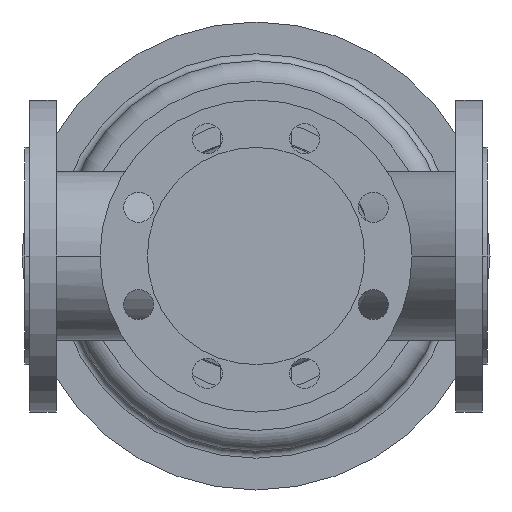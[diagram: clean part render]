
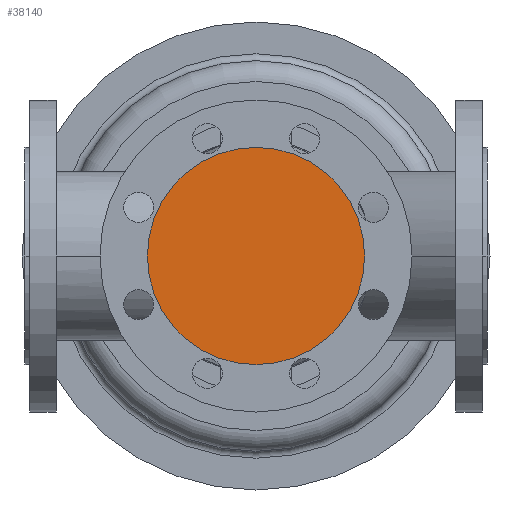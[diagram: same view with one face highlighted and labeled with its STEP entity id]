
A CAD part, front view. The second image highlights one B-rep face of the part: STEP entity #38140.
In plain terms, the highlighted planar face has unit normal (0, -1, 0).
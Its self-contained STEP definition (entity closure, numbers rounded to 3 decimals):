
#5360=CARTESIAN_POINT('',(294.,-200.,0.));
#5370=VERTEX_POINT('',#5360);
#5530=CARTESIAN_POINT('',(106.,-200.,0.));
#5540=VERTEX_POINT('',#5530);
#5570=CARTESIAN_POINT('',(200.,-200.,0.));
#5580=DIRECTION('',(0.,1.,0.));
#5590=DIRECTION('',(1.,0.,0.));
#5600=AXIS2_PLACEMENT_3D('',#5570,#5580,#5590);
#5610=CIRCLE('',#5600,94.);
#5620=EDGE_CURVE('',#5370,#5540,#5610,.T.);
#38040=CARTESIAN_POINT('',(247.,-200.,0.));
#38050=DIRECTION('',(0.,-1.,0.));
#38060=DIRECTION('',(-1.,0.,0.));
#38070=AXIS2_PLACEMENT_3D('',#38040,#38050,#38060);
#38080=PLANE('',#38070);
#38090=EDGE_CURVE('',#5540,#5370,#5610,.T.);
#38100=ORIENTED_EDGE('',*,*,#38090,.F.);
#38110=ORIENTED_EDGE('',*,*,#5620,.F.);
#38120=EDGE_LOOP('',(#38110,#38100));
#38130=FACE_OUTER_BOUND('',#38120,.T.);
#38140=ADVANCED_FACE('',(#38130),#38080,.T.);
